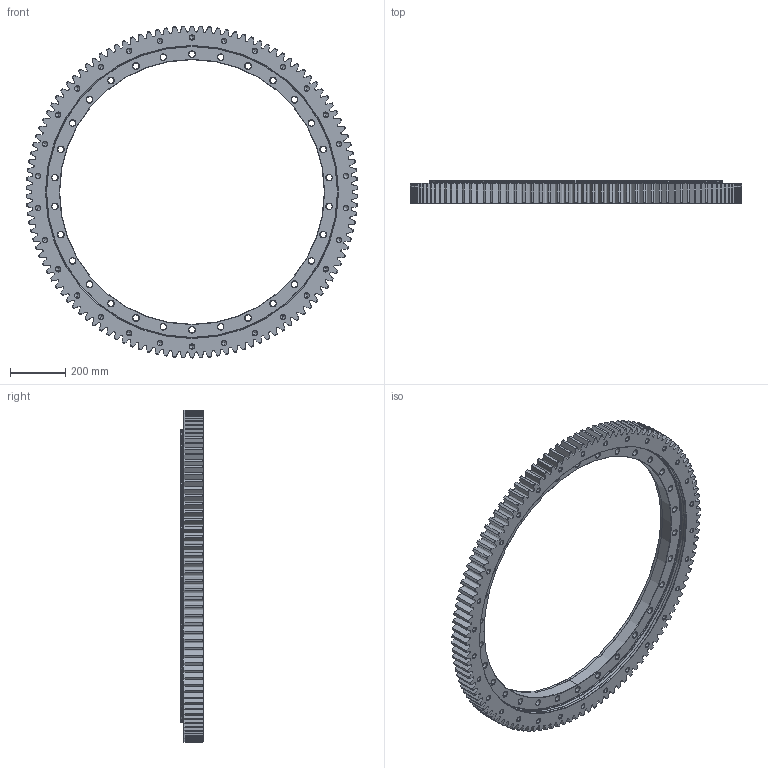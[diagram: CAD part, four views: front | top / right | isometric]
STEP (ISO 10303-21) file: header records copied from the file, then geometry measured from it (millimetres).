
FILE_DESCRIPTION (( 'STEP AP203' ), '1' );
FILE_NAME ('B2125-2-1198CA MONTAJ.STEP', '2021-03-19T08:33:15', ( '' ), ( '' ), 'SwSTEP 2.0', 'SolidWorks 2020', '' );
FILE_SCHEMA (( 'CONFIG_CONTROL_DESIGN' ));
Length unit declared in the file: millimetre
Products named in the file (3): B2125-2-1198CA 嵬; B2125-2-1198CA DR; B2125-2-1198CA MONTAJ
Assembly tree (2 placements, depth 2):
  B2125-2-1198CA MONTAJ
    B2125-2-1198CA 嵬
    B2125-2-1198CA DR
Bounding box: 1197.78 x 82 x 1198 mm (x, y, z)
Volume: 18093456.1 mm3; surface area: 2176589.5 mm2
Topology: 2 solids, 2 shells, 903 faces, 2398 edges, 1473 vertices
Faces by surface type: cone 494, cylinder 261, bspline 118, torus 22, plane 8
Entity records: 59902 total; most frequent: CARTESIAN_POINT 38349, ORIENTED_EDGE 4676, DIRECTION 4203, EDGE_CURVE 2338, AXIS2_PLACEMENT_3D 1783, VERTEX_POINT 1473, EDGE_LOOP 1001, CIRCLE 993
